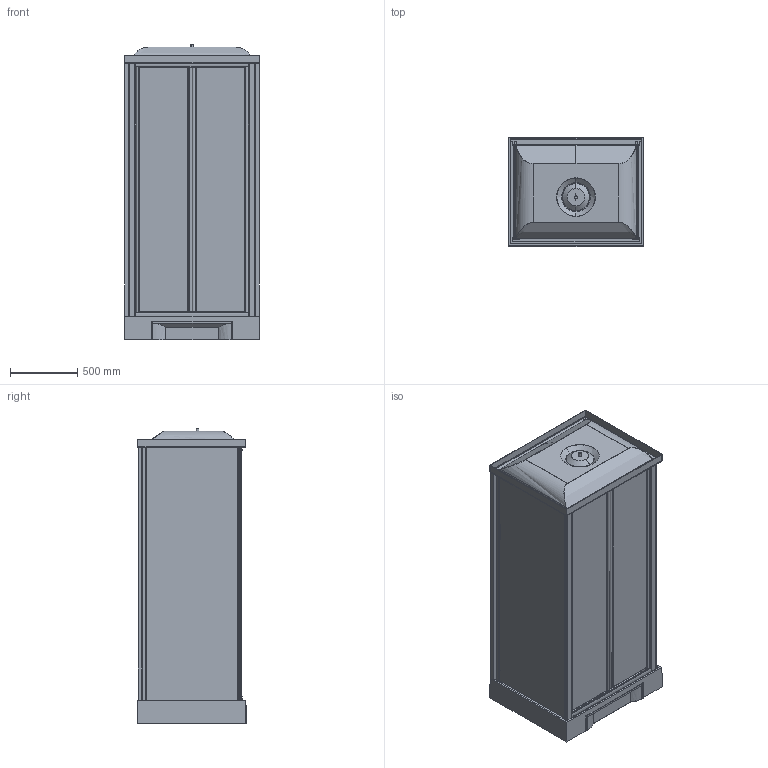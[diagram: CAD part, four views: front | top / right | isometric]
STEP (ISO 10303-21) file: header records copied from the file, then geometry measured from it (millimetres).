
FILE_DESCRIPTION(('STEP AP203'),'2;1');
FILE_NAME('NNH 2F 100 T 19 F.stp','2015-09-04T14:47:59',(''),(''),'2014.1.117','THINKDESIGN','');
FILE_SCHEMA(('CONFIG_CONTROL_DESIGN'));
Length unit declared in the file: millimetre
Products named in the file (1): top
Bounding box: 1004.04 x 807.53 x 2192.4 mm (x, y, z)
Volume: 180861509.5 mm3; surface area: 20633983.1 mm2
Topology: 38 solids, 38 shells, 722 faces, 1815 edges, 1189 vertices
Faces by surface type: bspline 326, plane 313, cylinder 83
Entity records: 57871 total; most frequent: CARTESIAN_POINT 43087, ORIENTED_EDGE 3446, DIRECTION 2135, EDGE_CURVE 1723, VERTEX_POINT 1116, VECTOR 823, LINE 823, EDGE_LOOP 737
